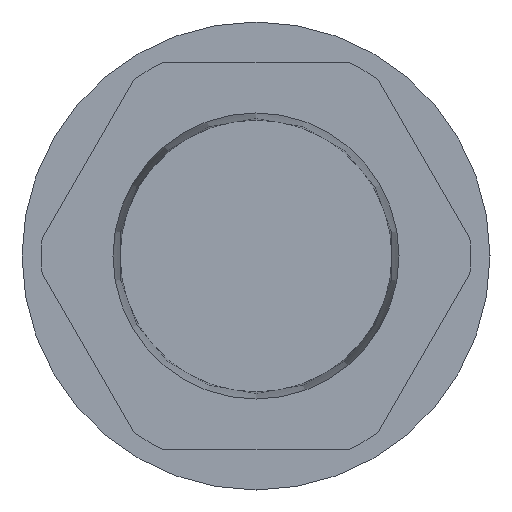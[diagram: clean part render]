
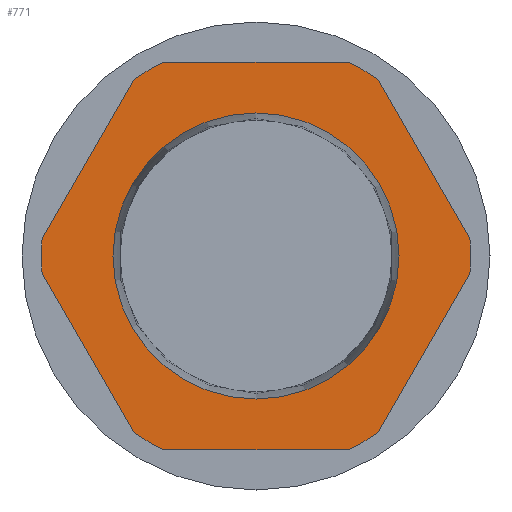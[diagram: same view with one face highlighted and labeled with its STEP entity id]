
A CAD part, left-side view. The second image highlights one B-rep face of the part: STEP entity #771.
In plain terms, the highlighted planar face has unit normal (-1, 0, 0).
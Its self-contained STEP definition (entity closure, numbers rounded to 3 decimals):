
#84=CARTESIAN_POINT('',(-39.24,0.,10.7));
#85=VERTEX_POINT('',#84);
#86=CARTESIAN_POINT('',(-39.24,0.0,0.0));
#87=DIRECTION('',(1.0,0.0,0.0));
#88=DIRECTION('',(0.0,0.0,-1.0));
#89=AXIS2_PLACEMENT_3D('',#86,#87,#88);
#90=CIRCLE('',#89,10.7);
#91=EDGE_CURVE('',#85,#85,#90,.T.);
#460=CARTESIAN_POINT('',(-39.24,6.881,14.5));
#461=VERTEX_POINT('',#460);
#469=CARTESIAN_POINT('',(-39.24,9.117,13.209));
#470=VERTEX_POINT('',#469);
#477=CARTESIAN_POINT('',(-39.24,0.0,0.0));
#478=DIRECTION('',(1.0,0.0,0.0));
#479=DIRECTION('',(0.0,-1.0,0.0));
#480=AXIS2_PLACEMENT_3D('',#477,#478,#479);
#481=CIRCLE('',#480,16.05);
#482=EDGE_CURVE('',#470,#461,#481,.T.);
#492=CARTESIAN_POINT('',(-39.24,-9.117,13.209));
#493=VERTEX_POINT('',#492);
#501=CARTESIAN_POINT('',(-39.24,-6.881,14.5));
#502=VERTEX_POINT('',#501);
#509=CARTESIAN_POINT('',(-39.24,0.0,0.0));
#510=DIRECTION('',(1.0,0.0,0.0));
#511=DIRECTION('',(0.0,-1.0,0.0));
#512=AXIS2_PLACEMENT_3D('',#509,#510,#511);
#513=CIRCLE('',#512,16.05);
#514=EDGE_CURVE('',#502,#493,#513,.T.);
#524=CARTESIAN_POINT('',(-39.24,15.998,-1.291));
#525=VERTEX_POINT('',#524);
#532=CARTESIAN_POINT('',(-39.24,15.998,1.291));
#533=VERTEX_POINT('',#532);
#534=CARTESIAN_POINT('',(-39.24,0.0,0.0));
#535=DIRECTION('',(1.0,0.0,0.0));
#536=DIRECTION('',(0.0,-1.0,0.0));
#537=AXIS2_PLACEMENT_3D('',#534,#535,#536);
#538=CIRCLE('',#537,16.05);
#539=EDGE_CURVE('',#525,#533,#538,.T.);
#556=CARTESIAN_POINT('',(-39.24,-15.998,-1.291));
#557=VERTEX_POINT('',#556);
#565=CARTESIAN_POINT('',(-39.24,-15.998,1.291));
#566=VERTEX_POINT('',#565);
#573=CARTESIAN_POINT('',(-39.24,0.0,0.0));
#574=DIRECTION('',(1.0,0.0,0.0));
#575=DIRECTION('',(0.0,-1.0,0.0));
#576=AXIS2_PLACEMENT_3D('',#573,#574,#575);
#577=CIRCLE('',#576,16.05);
#578=EDGE_CURVE('',#566,#557,#577,.T.);
#588=CARTESIAN_POINT('',(-39.24,6.881,-14.5));
#589=VERTEX_POINT('',#588);
#596=CARTESIAN_POINT('',(-39.24,9.117,-13.209));
#597=VERTEX_POINT('',#596);
#598=CARTESIAN_POINT('',(-39.24,0.0,0.0));
#599=DIRECTION('',(1.0,0.0,0.0));
#600=DIRECTION('',(0.0,-1.0,0.0));
#601=AXIS2_PLACEMENT_3D('',#598,#599,#600);
#602=CIRCLE('',#601,16.05);
#603=EDGE_CURVE('',#589,#597,#602,.T.);
#620=CARTESIAN_POINT('',(-39.24,-6.881,-14.5));
#621=VERTEX_POINT('',#620);
#629=CARTESIAN_POINT('',(-39.24,-9.117,-13.209));
#630=VERTEX_POINT('',#629);
#637=CARTESIAN_POINT('',(-39.24,0.0,0.0));
#638=DIRECTION('',(1.0,0.0,0.0));
#639=DIRECTION('',(0.0,-1.0,0.0));
#640=AXIS2_PLACEMENT_3D('',#637,#638,#639);
#641=CIRCLE('',#640,16.05);
#642=EDGE_CURVE('',#630,#621,#641,.T.);
#653=CARTESIAN_POINT('',(-39.24,-6.881,-14.5));
#654=DIRECTION('',(0.0,1.0,0.0));
#655=VECTOR('',#654,13.763);
#656=LINE('',#653,#655);
#657=EDGE_CURVE('',#621,#589,#656,.T.);
#672=CARTESIAN_POINT('',(-39.24,-15.998,-1.291));
#673=DIRECTION('',(0.0,0.5,-0.866));
#674=VECTOR('',#673,13.763);
#675=LINE('',#672,#674);
#676=EDGE_CURVE('',#557,#630,#675,.T.);
#687=CARTESIAN_POINT('',(-39.24,9.117,-13.209));
#688=DIRECTION('',(0.0,0.5,0.866));
#689=VECTOR('',#688,13.763);
#690=LINE('',#687,#689);
#691=EDGE_CURVE('',#597,#525,#690,.T.);
#706=CARTESIAN_POINT('',(-39.24,-9.117,13.209));
#707=DIRECTION('',(0.0,-0.5,-0.866));
#708=VECTOR('',#707,13.763);
#709=LINE('',#706,#708);
#710=EDGE_CURVE('',#493,#566,#709,.T.);
#723=CARTESIAN_POINT('',(-39.24,6.881,14.5));
#724=DIRECTION('',(0.0,-1.0,0.0));
#725=VECTOR('',#724,13.763);
#726=LINE('',#723,#725);
#727=EDGE_CURVE('',#461,#502,#726,.T.);
#738=CARTESIAN_POINT('',(-39.24,15.998,1.291));
#739=DIRECTION('',(0.0,-0.5,0.866));
#740=VECTOR('',#739,13.763);
#741=LINE('',#738,#740);
#742=EDGE_CURVE('',#533,#470,#741,.T.);
#749=CARTESIAN_POINT('',(-39.24,0.,0.));
#750=DIRECTION('',(1.0,0.0,0.0));
#751=DIRECTION('',(0.0,0.0,-1.0));
#752=AXIS2_PLACEMENT_3D('',#749,#750,#751);
#753=PLANE('',#752);
#754=ORIENTED_EDGE('',*,*,#642,.F.);
#755=ORIENTED_EDGE('',*,*,#676,.F.);
#756=ORIENTED_EDGE('',*,*,#578,.F.);
#757=ORIENTED_EDGE('',*,*,#710,.F.);
#758=ORIENTED_EDGE('',*,*,#514,.F.);
#759=ORIENTED_EDGE('',*,*,#727,.F.);
#760=ORIENTED_EDGE('',*,*,#482,.F.);
#761=ORIENTED_EDGE('',*,*,#742,.F.);
#762=ORIENTED_EDGE('',*,*,#539,.F.);
#763=ORIENTED_EDGE('',*,*,#691,.F.);
#764=ORIENTED_EDGE('',*,*,#603,.F.);
#765=ORIENTED_EDGE('',*,*,#657,.F.);
#766=EDGE_LOOP('',(#754,#755,#756,#757,#758,#759,#760,#761,#762,#763,#764,#765));
#767=FACE_OUTER_BOUND('',#766,.T.);
#768=ORIENTED_EDGE('',*,*,#91,.T.);
#769=EDGE_LOOP('',(#768));
#770=FACE_BOUND('',#769,.T.);
#771=ADVANCED_FACE('',(#767,#770),#753,.F.);
